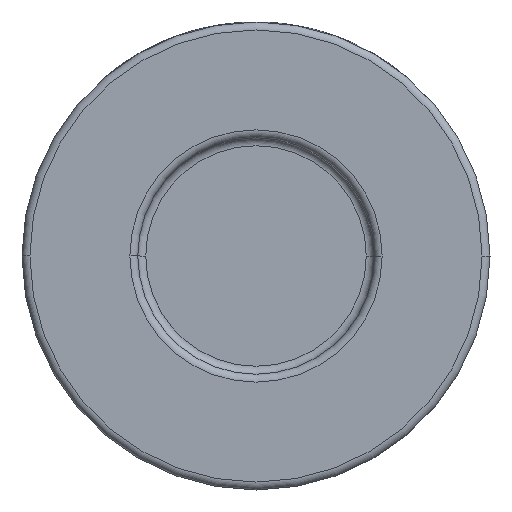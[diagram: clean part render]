
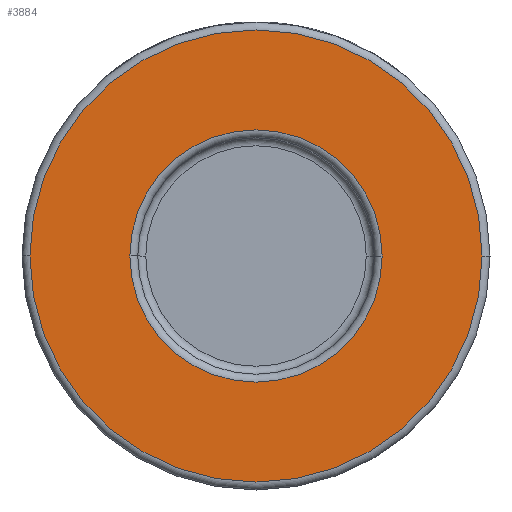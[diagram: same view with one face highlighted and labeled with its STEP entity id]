
A CAD part, front view. The second image highlights one B-rep face of the part: STEP entity #3884.
In plain terms, the highlighted planar face has unit normal (0, -1, 0).
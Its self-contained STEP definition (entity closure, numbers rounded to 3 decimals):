
#23 = AXIS2_PLACEMENT_3D ( 'NONE', #2774, #4259, #3159 ) ;
#43 = CARTESIAN_POINT ( 'NONE',  ( 0., -27., 0. ) ) ;
#395 = AXIS2_PLACEMENT_3D ( 'NONE', #2822, #4240, #673 ) ;
#575 = CIRCLE ( 'NONE', #3205, 15.9 ) ;
#632 = EDGE_LOOP ( 'NONE', ( #968, #1867 ) ) ;
#673 = DIRECTION ( 'NONE',  ( 1., 0., 0. ) ) ;
#712 = CARTESIAN_POINT ( 'NONE',  ( -15.9, -27., 0. ) ) ;
#968 = ORIENTED_EDGE ( 'NONE', *, *, #1711, .T. ) ;
#1132 = DIRECTION ( 'NONE',  ( 1., 0., 0. ) ) ;
#1353 = VERTEX_POINT ( 'NONE', #712 ) ;
#1435 = FACE_BOUND ( 'NONE', #632, .T. ) ;
#1711 = EDGE_CURVE ( 'NONE', #3799, #1353, #575, .T. ) ;
#1855 = CARTESIAN_POINT ( 'NONE',  ( 0., -27., 0. ) ) ;
#1867 = ORIENTED_EDGE ( 'NONE', *, *, #3474, .T. ) ;
#1884 = VERTEX_POINT ( 'NONE', #3052 ) ;
#2177 = ORIENTED_EDGE ( 'NONE', *, *, #2590, .T. ) ;
#2201 = DIRECTION ( 'NONE',  ( 0., -1., 0. ) ) ;
#2537 = DIRECTION ( 'NONE',  ( 0., 1., 0. ) ) ;
#2560 = DIRECTION ( 'NONE',  ( 1., 0., 0. ) ) ;
#2583 = DIRECTION ( 'NONE',  ( 0., 1., 0. ) ) ;
#2590 = EDGE_CURVE ( 'NONE', #1884, #3175, #4633, .T. ) ;
#2696 = AXIS2_PLACEMENT_3D ( 'NONE', #43, #2201, #1132 ) ;
#2774 = CARTESIAN_POINT ( 'NONE',  ( 0., -27., 0. ) ) ;
#2822 = CARTESIAN_POINT ( 'NONE',  ( 29.5, -27., 0. ) ) ;
#2867 = CIRCLE ( 'NONE', #4051, 15.9 ) ;
#2918 = ORIENTED_EDGE ( 'NONE', *, *, #4092, .T. ) ;
#3017 = EDGE_LOOP ( 'NONE', ( #2918, #2177 ) ) ;
#3052 = CARTESIAN_POINT ( 'NONE',  ( -28.5, -27., 0. ) ) ;
#3159 = DIRECTION ( 'NONE',  ( 1., 0., 0. ) ) ;
#3164 = FACE_OUTER_BOUND ( 'NONE', #3017, .T. ) ;
#3175 = VERTEX_POINT ( 'NONE', #3795 ) ;
#3205 = AXIS2_PLACEMENT_3D ( 'NONE', #3348, #2537, #2560 ) ;
#3299 = DIRECTION ( 'NONE',  ( 1., 0., 0. ) ) ;
#3348 = CARTESIAN_POINT ( 'NONE',  ( 0., -27., 0. ) ) ;
#3474 = EDGE_CURVE ( 'NONE', #1353, #3799, #2867, .T. ) ;
#3485 = CIRCLE ( 'NONE', #23, 28.5 ) ;
#3585 = CARTESIAN_POINT ( 'NONE',  ( 15.9, -27., 0. ) ) ;
#3795 = CARTESIAN_POINT ( 'NONE',  ( 28.5, -27., 0. ) ) ;
#3799 = VERTEX_POINT ( 'NONE', #3585 ) ;
#3884 = ADVANCED_FACE ( 'NONE', ( #1435, #3164 ), #3931, .T. ) ;
#3931 = PLANE ( 'NONE',  #395 ) ;
#4051 = AXIS2_PLACEMENT_3D ( 'NONE', #1855, #2583, #3299 ) ;
#4092 = EDGE_CURVE ( 'NONE', #3175, #1884, #3485, .T. ) ;
#4240 = DIRECTION ( 'NONE',  ( 0., -1., 0. ) ) ;
#4259 = DIRECTION ( 'NONE',  ( 0., -1., 0. ) ) ;
#4633 = CIRCLE ( 'NONE', #2696, 28.5 ) ;
